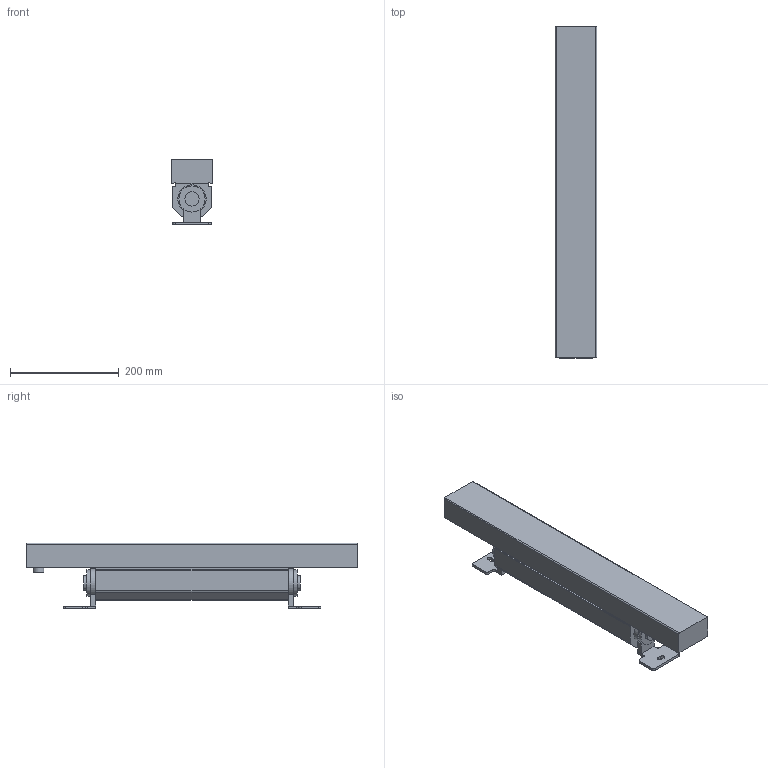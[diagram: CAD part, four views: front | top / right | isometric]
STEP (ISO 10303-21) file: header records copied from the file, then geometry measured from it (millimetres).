
FILE_DESCRIPTION(/* description */ ('Unknown'),/* implementation_level */ '2;1');
FILE_NAME(/* name */ 'Eminere 2 MC',/* time_stamp */ '2024-06-18T11:57:16+02:00',/* author */ ('Unknown'),/* organization */ ('Unknown'),/* preprocessor_version */ 'ST-DEVELOPER v19.4',/* originating_system */ 'Solid Edge',/* authorisation */ 'Unknown');
FILE_SCHEMA (('AUTOMOTIVE_DESIGN {1 0 10303 214 3 1 1}'));
Length unit declared in the file: millimetre
Products named in the file (1): Eminere 2 MC
Bounding box: 76 x 609.6 x 120.6 mm (x, y, z)
Volume: 3602276.3 mm3; surface area: 229642.2 mm2
Topology: 1 solids, 1 shells, 96 faces, 264 edges, 175 vertices
Faces by surface type: plane 55, cylinder 40, bspline 1
Full cylindrical faces by diameter (mm): 26 x2, 48 x2
Entity records: 3838 total; most frequent: CARTESIAN_POINT 644, DIRECTION 528, ORIENTED_EDGE 516, EDGE_CURVE 258, AXIS2_PLACEMENT_3D 180, VERTEX_POINT 174, LINE 168, VECTOR 168
